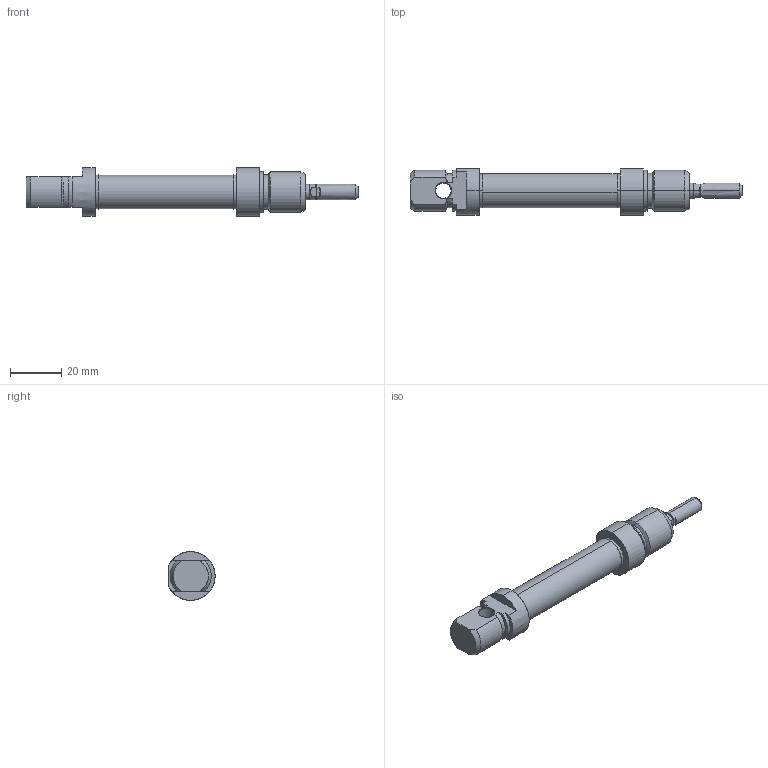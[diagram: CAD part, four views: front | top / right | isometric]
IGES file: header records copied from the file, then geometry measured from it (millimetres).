
Start section: SolidWorks IGES file using analytic representation for surfaces
Global section: file name: K:\Disegni Esecutivi\Cilindri\2_DISEGNI_cilindri_in_produzione\2_Minicilindri ISO 6432\1Minisolidworks\3_minicilindro iso 6432_12 solidworks\complessivomini12\MB012\MB012_PIENO\MB0120025A.igs; native system: SolidWorks 2011; preprocessor: SolidWorks 2011; author: cad01; date: 110505.180517; units: millimetre
Bounding box: 129.5 x 18 x 19 mm (x, y, z)
Surface area: 8315.2 mm2 (no closed solid volume)
Topology: 0 solids, 0 shells, 102 faces, 1576 edges, 1574 vertices
Faces by surface type: revolution 69, bspline 33
